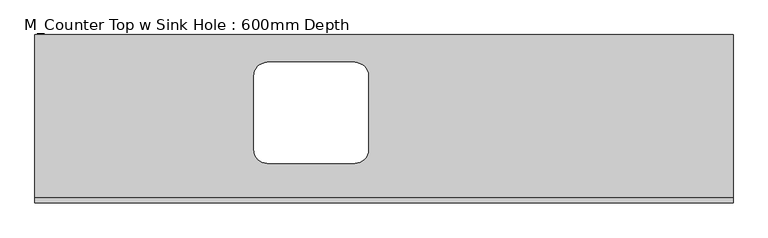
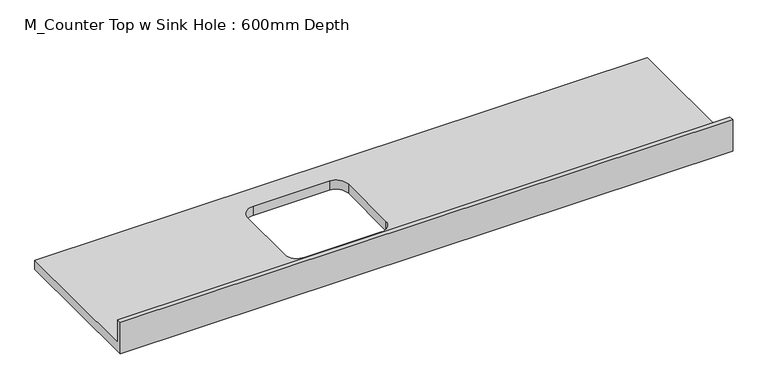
"""IFC4 building model written with IfcOpenShell, lengths in millimetres: furniture geometry, M_Counter Top w Sink Hole : 600mm Depth."""

from ifc_helpers import new_model, si_unit, frame, origin, place, context, project, spatial, polyline, circle_curve, source, transform, mapped, element, save
from ifc_brep_helpers import plane_surface, revolved_surface, advanced_brep


def m_counter_top_w_sink_hole_600mm_depth_7e9aa94d(model_context):
    return source(origin(), model_context, "Body", "AdvancedBrep", [
        advanced_brep(
        [(-1200.4622951, 625.0, 900.0), (-1200.4622951, 19.05, 900.0), (1390.5377049, 19.05, 900.0), (1390.5377049, 625.0, 900.0), (-337.3622951, 147.3, 900.0), (-388.1622951, 198.1, 900.0), (-388.1622951, 471.9, 900.0), (-337.3622951, 522.7, 900.0), (-13.5622951, 522.7, 900.0), (37.2377049, 471.9, 900.0), (37.2377049, 198.1, 900.0), (-13.5622951, 147.3, 900.0), (1390.5377049, 0.0, 860.0), (-1200.4622951, 0.0, 860.0), (-1200.4622951, 625.0, 860.0), (1390.5377049, 625.0, 860.0), (-13.5622951, 147.3, 860.0), (37.2377049, 198.1, 860.0), (37.2377049, 471.9, 860.0), (-13.5622951, 522.7, 860.0), (-337.3622951, 522.7, 860.0), (-388.1622951, 471.9, 860.0), (-388.1622951, 198.1, 860.0), (-337.3622951, 147.3, 860.0), (1390.5377049, 0.0, 1001.6), (-1200.4622951, 0.0, 1001.6), (-1200.4622951, 19.05, 1001.6), (1390.5377049, 19.05, 1001.6)],
        [
            (0, 1),
            (1, 2),
            (2, 3),
            (3, 0),
            (4, 5, circle_curve(frame((-337.3622951, 198.1, 900.0), z_axis=(0.0, 0.0, -1.0), x_axis=(1.0, 0.0, 0.0)), 50.8)),
            (5, 6),
            (6, 7, circle_curve(frame((-337.3622951, 471.9, 900.0), z_axis=(0.0, 0.0, -1.0), x_axis=(1.0, 0.0, 0.0)), 50.8)),
            (7, 8),
            (8, 9, circle_curve(frame((-13.5622951, 471.9, 900.0), z_axis=(0.0, 0.0, -1.0), x_axis=(1.0, 0.0, 0.0)), 50.8)),
            (9, 10),
            (10, 11, circle_curve(frame((-13.5622951, 198.1, 900.0), z_axis=(0.0, 0.0, -1.0), x_axis=(1.0, 0.0, 0.0)), 50.8)),
            (11, 4),
            (12, 13),
            (13, 14),
            (14, 15),
            (15, 12),
            (16, 17, circle_curve(frame((-13.5622951, 198.1, 860.0), z_axis=(0.0, 0.0, 1.0), x_axis=(1.0, 0.0, 0.0)), 50.8)),
            (17, 18),
            (18, 19, circle_curve(frame((-13.5622951, 471.9, 860.0), z_axis=(0.0, 0.0, 1.0), x_axis=(1.0, 0.0, 0.0)), 50.8)),
            (19, 20),
            (20, 21, circle_curve(frame((-337.3622951, 471.9, 860.0), z_axis=(0.0, 0.0, 1.0), x_axis=(1.0, 0.0, 0.0)), 50.8)),
            (21, 22),
            (22, 23, circle_curve(frame((-337.3622951, 198.1, 860.0), z_axis=(0.0, 0.0, 1.0), x_axis=(1.0, 0.0, 0.0)), 50.8)),
            (23, 16),
            (12, 24),
            (24, 25),
            (25, 13),
            (25, 26),
            (26, 1),
            (0, 14),
            (3, 15),
            (2, 27),
            (27, 24),
            (27, 26),
            (11, 16),
            (23, 4),
            (22, 5),
            (21, 6),
            (20, 7),
            (19, 8),
            (18, 9),
            (17, 10),
        ],
        [
            plane_surface(frame((-1200.4622951, 0.0, 900.0), z_axis=(0.0, 0.0, 1.0), x_axis=(-1.0, 0.0, 0.0))),
            plane_surface(frame((-1200.4622951, 0.0, 860.0), z_axis=(0.0, 0.0, -1.0), x_axis=(1.0, 0.0, 0.0))),
            plane_surface(frame((1390.5377049, 0.0, 900.0), z_axis=(0.0, -1.0, 0.0), x_axis=(0.0, 0.0, -1.0))),
            plane_surface(frame((-1200.4622951, 0.0, 900.0), z_axis=(-1.0, 0.0, 0.0), x_axis=(0.0, 0.0, -1.0))),
            plane_surface(frame((-1200.4622951, 625.0, 900.0), z_axis=(0.0, 1.0, 0.0), x_axis=(0.0, 0.0, -1.0))),
            plane_surface(frame((1390.5377049, 625.0, 900.0), z_axis=(1.0, 0.0, 0.0), x_axis=(0.0, 0.0, -1.0))),
            plane_surface(frame((-1200.4622951, 0.0, 1001.6), z_axis=(0.0, 0.0, 1.0), x_axis=(0.0, 1.0, 0.0))),
            plane_surface(frame((-1200.4622951, 19.05, 1001.6), z_axis=(0.0, 1.0, 0.0), x_axis=(0.0, 0.0, -1.0))),
            plane_surface(frame((-13.5622951, 147.3, 900.0), z_axis=(0.0, 1.0, 0.0), x_axis=(0.0, 0.0, -1.0))),
            revolved_surface(polyline([(-286.5622951, 198.1, 900.0), (-286.5622951, 198.1, 860.0)]), (-337.3622951, 198.1, 860.0), (0.0, 0.0, 1.0)),
            plane_surface(frame((-388.1622951, 198.1, 900.0), z_axis=(1.0, 0.0, 0.0), x_axis=(0.0, 0.0, -1.0))),
            revolved_surface(polyline([(-286.5622951, 471.9, 900.0), (-286.5622951, 471.9, 860.0)]), (-337.3622951, 471.9, 860.0), (0.0, 0.0, 1.0)),
            plane_surface(frame((-337.3622951, 522.7, 900.0), z_axis=(0.0, -1.0, 0.0), x_axis=(0.0, 0.0, -1.0))),
            revolved_surface(polyline([(37.2377049, 471.9, 900.0), (37.2377049, 471.9, 860.0)]), (-13.5622951, 471.9, 860.0), (0.0, 0.0, 1.0)),
            plane_surface(frame((37.2377049, 471.9, 900.0), z_axis=(-1.0, 0.0, 0.0), x_axis=(0.0, 0.0, -1.0))),
            revolved_surface(polyline([(37.2377049, 198.1, 900.0), (37.2377049, 198.1, 860.0)]), (-13.5622951, 198.1, 860.0), (0.0, 0.0, 1.0)),
        ],
        [
            (0, [[1, 2, 3, 4], [5, 6, 7, 8, 9, 10, 11, 12]]),
            (1, [[13, 14, 15, 16], [17, 18, 19, 20, 21, 22, 23, 24]]),
            (2, [[25, 26, 27, -13]]),
            (3, [[-27, 28, 29, -1, 30, -14]]),
            (4, [[31, -15, -30, -4]]),
            (5, [[-31, -3, 32, 33, -25, -16]]),
            (6, [[-26, -33, 34, -28]]),
            (7, [[-32, -2, -29, -34]]),
            (8, [[-12, 35, -24, 36]]),
            (9, [[-23, 37, -5, -36]]),
            (10, [[-22, 38, -6, -37]]),
            (11, [[-21, 39, -7, -38]]),
            (12, [[-20, 40, -8, -39]]),
            (13, [[-19, 41, -9, -40]]),
            (14, [[-18, 42, -10, -41]]),
            (15, [[-11, -42, -17, -35]]),
        ],
    ),
    ])


if __name__ == "__main__":
    model = new_model("IFC4")
    model_context = context("Model", 3, world=origin())
    ifc_project = project(units=[si_unit("LENGTHUNIT", "METRE", prefix="MILLI")], contexts=[model_context])
    site = spatial("IfcSite", under=ifc_project)
    building = spatial("IfcBuilding", under=site)
    placement = place(None, origin())
    m_counter_top_w_sink_hole_600mm_depth_shape = m_counter_top_w_sink_hole_600mm_depth_7e9aa94d(model_context)
    element("IfcFurniture", 1, ObjectType="M_Counter Top w Sink Hole : 600mm Depth", at=placement, inside=building, context=model_context, shape_type="MappedRepresentation", body=[
        mapped(m_counter_top_w_sink_hole_600mm_depth_shape, transform((0.0, 0.0, 0.0), x_axis=(1.0, 0.0, 0.0), y_axis=(0.0, 1.0, 0.0), z_axis=(0.0, 0.0, 1.0))),
    ])
    save(model, "model.ifc")
